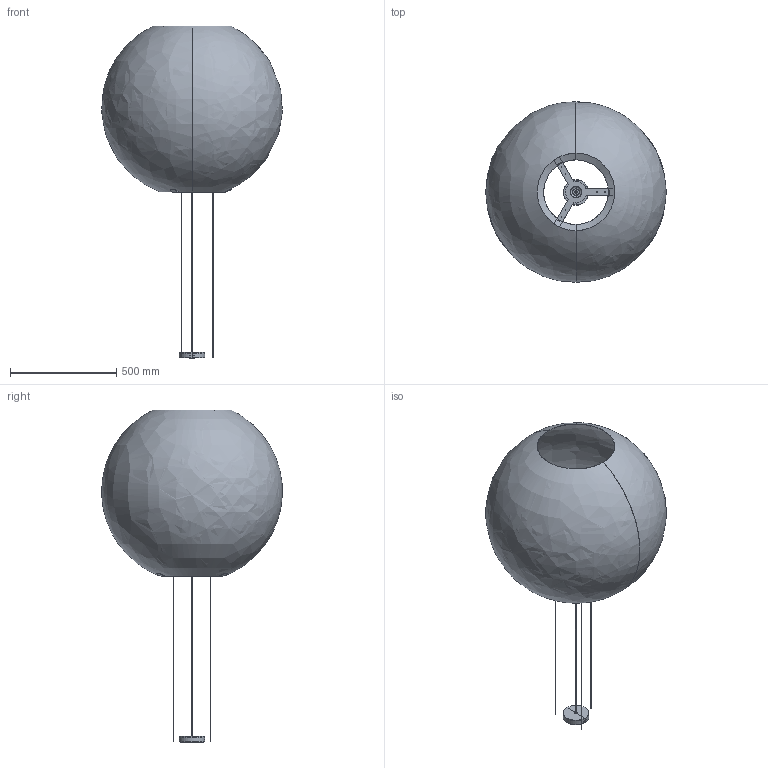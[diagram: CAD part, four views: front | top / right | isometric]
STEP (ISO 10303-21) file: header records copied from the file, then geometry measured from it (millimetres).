
FILE_DESCRIPTION(/* description */ (''),/* implementation_level */ '2;1');
FILE_NAME(/* name */ '20408.step',/* time_stamp */ '2024-03-28T11:46:19+01:00',/* author */ ('RenataManzini'),/* organization */ (''),/* preprocessor_version */ 'ST-DEVELOPER v20',/* originating_system */ 'AutoCAD Mechanical',/* authorisation */ '');
FILE_SCHEMA (('AUTOMOTIVE_DESIGN { 1 0 10303 214 3 1 1 }'));
Length unit declared in the file: millimetre
Products named in the file (4): Product; Pieza_20407_SC - Lamp Holder-711677-_3D_; Pieza_20408_SL01 - Lamp Holder-715029-_3D_; Pieza_20408_SL02 - Lamp Holder-713451-_3D_
Assembly tree (3 placements, depth 2):
  Product
    Pieza_20407_SC - Lamp Holder-711677-_3D_
    Pieza_20408_SL01 - Lamp Holder-715029-_3D_
    Pieza_20408_SL02 - Lamp Holder-713451-_3D_
Bounding box: 850.22 x 850.19 x 1562.39 mm (x, y, z)
Volume: 2242114.4 mm3; surface area: 4322544.9 mm2
Topology: 9 solids, 9 shells, 136 faces, 305 edges, 186 vertices
Faces by surface type: plane 61, cylinder 57, cone 10, torus 4, bspline 4
Entity records: 8538 total; most frequent: CARTESIAN_POINT 5356, DIRECTION 675, ORIENTED_EDGE 610, EDGE_CURVE 305, AXIS2_PLACEMENT_3D 255, VERTEX_POINT 186, LINE 165, VECTOR 165
